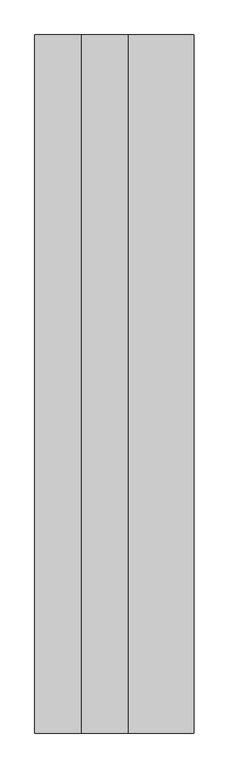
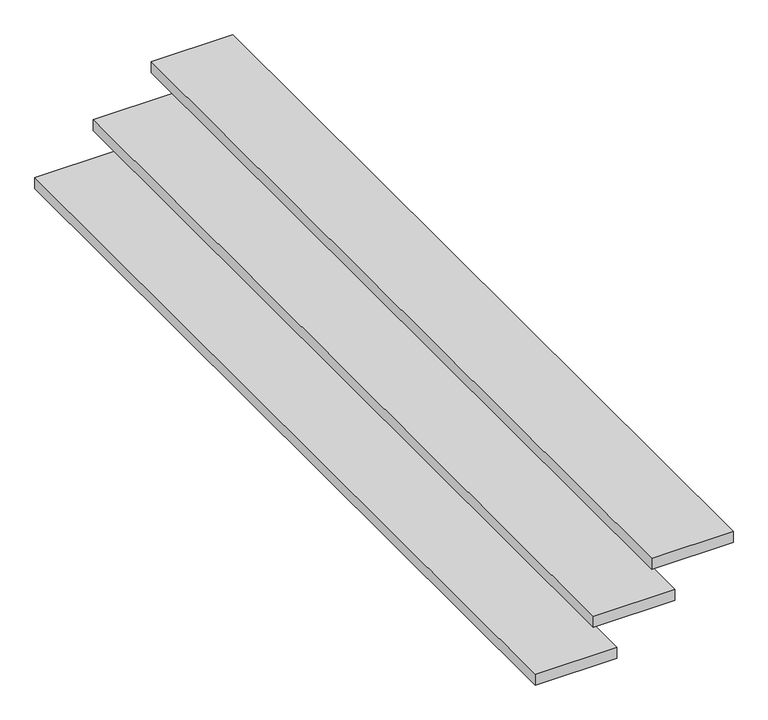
"""IFC4 building model written with IfcOpenShell, lengths in millimetres: stair flight geometry, 50 mm Tread 30 mm Nosing 15 mm Riser."""

import ifcopenshell
import ifcopenshell.guid

model = None  # the IFC model being written
_history = None  # IfcOwnerHistory: only IFC2X3 demands one
_inside = {}  # id of a spatial element -> (the spatial element, [elements in it])
_under = {}  # id of a project, library or spatial element -> (it, [spatial elements below it])
_declared = {}  # id of a project -> (the project, [libraries it declares])
_typed = {}  # id of a type object -> (the type object, [elements of that type])
_made_of = {}  # id of a material, layer set ... -> (it, [elements and type objects made of it])


def new_model(schema):
    """Start an empty IFC model of exactly this schema.

    Asked for "IFC4X3", IfcOpenShell would pick the latest addendum, in which some entities
    have other attributes; the version numbers below select the first issue.
    IFC2X3 requires an IfcOwnerHistory on every rooted entity: one is made here for all.
    """
    global model, _history
    if schema == "IFC4X3":
        model = ifcopenshell.file(schema_version=(4, 3, 0, 0))
    else:
        model = ifcopenshell.file(schema=schema)
    _inside.clear()
    _under.clear()
    _declared.clear()
    _typed.clear()
    _made_of.clear()
    _history = None
    if model.schema == "IFC2X3":
        org = make("IfcOrganization", Name="unknown")
        user = make(
            "IfcPersonAndOrganization",
            ThePerson=make("IfcPerson", FamilyName="unknown"),
            TheOrganization=org,
        )
        app = make(
            "IfcApplication",
            ApplicationDeveloper=org,
            Version="unknown",
            ApplicationFullName="unknown",
            ApplicationIdentifier="unknown",
        )
        _history = make(
            "IfcOwnerHistory",
            OwningUser=user,
            OwningApplication=app,
            ChangeAction="ADDED",
            CreationDate=0,
        )
    return model


def make(cls, **values):
    """One entity of the class cls with the attributes given. An attribute that is None is left unset."""
    return model.create_entity(
        cls, **{name: value for name, value in values.items() if value is not None}
    )


def rooted(cls, **values):
    """An entity with a GlobalId (a new one), such as an element, a storey or a relation."""
    return make(cls, GlobalId=ifcopenshell.guid.new(), OwnerHistory=_history, **values)


def si_unit(unit_type, name, prefix=None):
    """IfcSIUnit, for example si_unit("LENGTHUNIT", "METRE", prefix="MILLI")."""
    return make("IfcSIUnit", UnitType=unit_type, Prefix=prefix, Name=name)


def assignment(units):
    """IfcUnitAssignment: the units of a project."""
    return None if units is None else make("IfcUnitAssignment", Units=units)


def point(xyz):
    """IfcCartesianPoint."""
    return None if xyz is None else make("IfcCartesianPoint", Coordinates=xyz)


def direction(xyz):
    """IfcDirection."""
    return None if xyz is None else make("IfcDirection", DirectionRatios=xyz)


def frame(location, z_axis=None, x_axis=None):
    """IfcAxis2Placement3D, a coordinate frame: its origin and axes. An axis left out is left unset."""
    return make(
        "IfcAxis2Placement3D",
        Location=point(location),
        Axis=direction(z_axis),
        RefDirection=direction(x_axis),
    )


def origin():
    """The frame at (0, 0, 0) with its axes left unset."""
    return frame((0.0, 0.0, 0.0))


def place(relative_to, where):
    """IfcLocalPlacement: puts the frame where relative to a parent placement (None: the world)."""
    return make(
        "IfcLocalPlacement", PlacementRelTo=relative_to, RelativePlacement=where
    )


def context(
    kind, dimensions, precision=None, world=None, true_north=None, identifier=None
):
    """IfcGeometricRepresentationContext, for example the 3D "Model" context."""
    return make(
        "IfcGeometricRepresentationContext",
        ContextIdentifier=identifier,
        ContextType=kind,
        CoordinateSpaceDimension=dimensions,
        Precision=precision,
        WorldCoordinateSystem=world,
        TrueNorth=true_north,
    )


def project(units=None, contexts=None):
    """IfcProject with its units and contexts."""
    return rooted(
        "IfcProject",
        Name="project",
        RepresentationContexts=contexts,
        UnitsInContext=assignment(units),
    )


def spatial(cls, under=None, at=None, **own):
    """A site, building, storey or space (cls), placed at a placement, below another one or the project."""
    s = rooted(cls, ObjectPlacement=at, **own)
    if under is not None:
        _under.setdefault(under.id(), (under, []))[1].append(s)
    return s


def polyline(points):
    """IfcPolyline through the points."""
    return make("IfcPolyline", Points=[point(p) for p in points])


def outline(outer, holes=None, kind="AREA"):
    """IfcArbitraryClosedProfileDef: a profile drawn as a closed curve; with holes, ...WithVoids."""
    if holes is None:
        return make("IfcArbitraryClosedProfileDef", ProfileType=kind, OuterCurve=outer)
    return make(
        "IfcArbitraryProfileDefWithVoids",
        ProfileType=kind,
        OuterCurve=outer,
        InnerCurves=holes,
    )


def extrude(swept, where, along, depth):
    """IfcExtrudedAreaSolid: the profile swept, set in the frame where, extruded along a direction by depth."""
    return make(
        "IfcExtrudedAreaSolid",
        SweptArea=swept,
        Position=where,
        ExtrudedDirection=direction(along),
        Depth=depth,
    )


def shape(context_of_items, identifier, shape_type, items):
    """IfcShapeRepresentation: the items that make up one representation, for example the "Body"."""
    return make(
        "IfcShapeRepresentation",
        ContextOfItems=context_of_items,
        RepresentationIdentifier=identifier,
        RepresentationType=shape_type,
        Items=items,
    )


def source(mapping_origin, context_of_items, identifier, shape_type, items):
    """IfcRepresentationMap: a shape defined once, which mapped items show again and again."""
    return make(
        "IfcRepresentationMap",
        MappingOrigin=mapping_origin,
        MappedRepresentation=shape(context_of_items, identifier, shape_type, items),
    )


def transform(
    local_origin,
    x_axis=None,
    y_axis=None,
    z_axis=None,
    scale=None,
    scale2=None,
    scale3=None,
    uniform=True,
):
    """IfcCartesianTransformationOperator3D, or its non-uniform kind. x_axis, y_axis, z_axis: its Axis1, 2, 3."""
    if uniform:
        return make(
            "IfcCartesianTransformationOperator3D",
            Axis1=direction(x_axis),
            Axis2=direction(y_axis),
            LocalOrigin=point(local_origin),
            Scale=scale,
            Axis3=direction(z_axis),
        )
    return make(
        "IfcCartesianTransformationOperator3DnonUniform",
        Axis1=direction(x_axis),
        Axis2=direction(y_axis),
        LocalOrigin=point(local_origin),
        Scale=scale,
        Axis3=direction(z_axis),
        Scale2=scale2,
        Scale3=scale3,
    )


def mapped(mapping_source, mapping_target):
    """IfcMappedItem: shows the shape of a source again, moved by a transform."""
    return make(
        "IfcMappedItem", MappingSource=mapping_source, MappingTarget=mapping_target
    )


def made_of(thing, what):
    """Note that an element or type object is made of a material, layer set ...; save() writes the relation."""
    if what is not None:
        _made_of.setdefault(what.id(), (what, []))[1].append(thing)
    return thing


def element(
    cls,
    number,
    at=None,
    inside=None,
    cuts=None,
    type_object=None,
    material=None,
    context=None,
    identifier="Body",
    shape_type=None,
    held_by="IfcProductDefinitionShape",
    body=None,
    shapes=None,
    **own,
):
    """One element of the class cls, such as IfcWall. Its Tag is "e" and its number.

    at: its placement. inside: the storey or other place that contains it. cuts: it is an
    opening in that element (IfcRelVoidsElement). A single representation is given by context,
    identifier, shape_type and body (its items); several are given by shapes. held_by: the class
    of the entity that holds the representations. save() writes the other relations.
    """
    e = rooted(cls, Tag="e%d" % number, ObjectPlacement=at, **own)
    if body is not None:
        shapes = [shape(context, identifier, shape_type, body)]
    if shapes is not None:
        e.Representation = make(held_by, Representations=shapes)
    if inside is not None:
        _inside.setdefault(inside.id(), (inside, []))[1].append(e)
    if cuts is not None:
        rooted(
            "IfcRelVoidsElement", RelatingBuildingElement=cuts, RelatedOpeningElement=e
        )
    if type_object is not None:
        _typed.setdefault(type_object.id(), (type_object, []))[1].append(e)
    return made_of(e, material)


def aggregate(whole, parts):
    """IfcRelAggregates: a whole, such as a stair, and the parts it consists of."""
    return rooted("IfcRelAggregates", RelatingObject=whole, RelatedObjects=parts)


def save(model, path):
    """Write the relations noted so far, then the file.

    IfcRelAggregates (storeys below a building ...), IfcRelContainedInSpatialStructure (elements
    in a storey), IfcRelDefinesByType, IfcRelAssociatesMaterial and IfcRelDeclares: one each for
    every whole, place, type object, material and project.
    """
    for whole, parts in _under.values():
        aggregate(whole, parts)
    for where, things in _inside.values():
        rooted(
            "IfcRelContainedInSpatialStructure",
            RelatedElements=things,
            RelatingStructure=where,
        )
    for kind, things in _typed.values():
        rooted("IfcRelDefinesByType", RelatedObjects=things, RelatingType=kind)
    for what, things in _made_of.values():
        rooted("IfcRelAssociatesMaterial", RelatedObjects=things, RelatingMaterial=what)
    for by, libraries in _declared.values():
        rooted("IfcRelDeclares", RelatingContext=by, RelatedDefinitions=libraries)
    model.write(path)


def stair_flight_7bb652fa(model_context):
    return source(origin(), model_context, "Body", "SweptSolid", [
        extrude(outline(polyline([(200.0, 3840.0), (200.0, 120.0), (-150.0, 120.0), (-150.0, 3840.0), (200.0, 3840.0)])), frame((0.0, 0.0, -575.0), z_axis=(0.0, 0.0, 1.0), x_axis=(1.0, 0.0, 0.0)), (0.0, 0.0, 1.0), 50.0),
        extrude(outline(polyline([(450.0, 3840.0), (450.0, 120.0), (100.0, 120.0), (100.0, 3840.0), (450.0, 3840.0)])), frame((0.0, 0.0, -400.0), z_axis=(0.0, 0.0, 1.0), x_axis=(1.0, 0.0, 0.0)), (0.0, 0.0, 1.0), 50.0),
        extrude(outline(polyline([(700.0, 3840.0), (700.0, 120.0), (350.0, 120.0), (350.0, 3840.0), (700.0, 3840.0)])), frame((0.0, 0.0, -225.0), z_axis=(0.0, 0.0, 1.0), x_axis=(1.0, 0.0, 0.0)), (0.0, 0.0, 1.0), 50.0),
    ])


if __name__ == "__main__":
    model = new_model("IFC4")
    model_context = context("Model", 3, world=origin())
    ifc_project = project(units=[si_unit("LENGTHUNIT", "METRE", prefix="MILLI")], contexts=[model_context])
    site = spatial("IfcSite", under=ifc_project)
    building = spatial("IfcBuilding", under=site)
    placement = place(None, origin())
    stair_flight_shape = stair_flight_7bb652fa(model_context)
    element("IfcStairFlight", 1, ObjectType="50 mm Tread 30 mm Nosing 15 mm Riser", at=placement, inside=building, context=model_context, shape_type="MappedRepresentation", body=[
        mapped(stair_flight_shape, transform((0.0, 0.0, 0.0), x_axis=(1.0, 0.0, 0.0), y_axis=(0.0, 1.0, 0.0), z_axis=(0.0, 0.0, 1.0))),
    ])
    save(model, "model.ifc")
